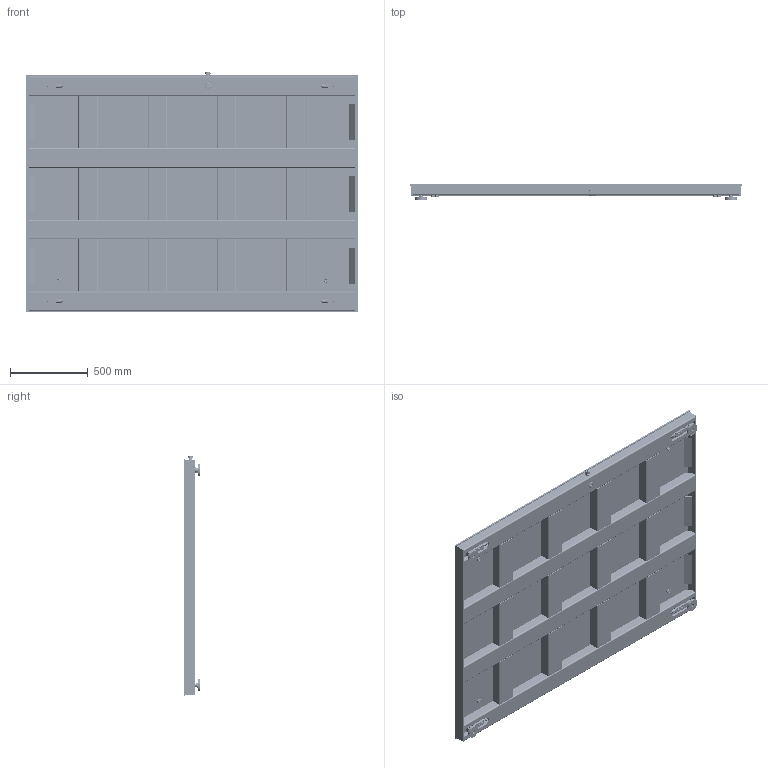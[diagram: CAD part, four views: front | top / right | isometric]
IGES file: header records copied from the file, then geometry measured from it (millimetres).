
Start section: SolidWorks IGES file using analytic representation for surfaces
Global section: file name: C:\0_Work\SolidWorks\~0_B-TEK Floor Scale\FS Series Floor Scales\HIFS-6084 Series.IGS; native system: SolidWorks 2017; preprocessor: SolidWorks 2017; author: vach01; date: 191017.084337; units: inch
Bounding box: 2133.6 x 105.48 x 1546.22 mm (x, y, z)
Surface area: 13983099.6 mm2 (no closed solid volume)
Topology: 0 solids, 0 shells, 20407 faces, 183653 edges, 183605 vertices
Faces by surface type: bspline 15660, revolution 4747
